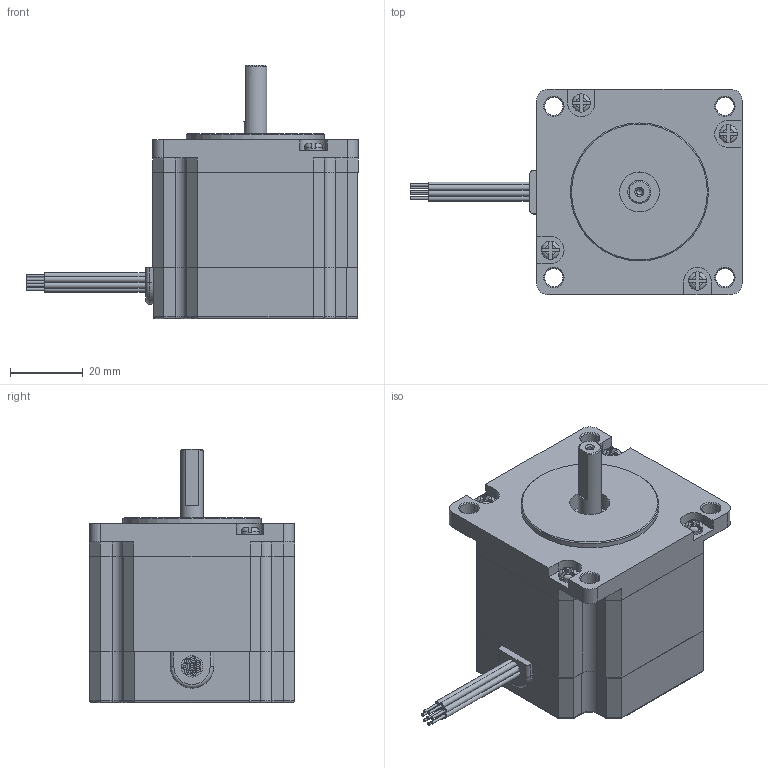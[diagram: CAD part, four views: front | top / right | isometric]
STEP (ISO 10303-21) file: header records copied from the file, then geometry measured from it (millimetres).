
FILE_DESCRIPTION(/* description */ (''),/* implementation_level */ '2;1');
FILE_NAME(/* name */ 'C:\Users\Admin\Desktop\MOTOR DE PASSO EDILSON\MOTOR HT23397.step',/* time_stamp */ '2020-07-06T16:43:31-03:00',/* author */ ('Admin'),/* organization */ (''),/* preprocessor_version */ 'ST-DEVELOPER v16.1',/* originating_system */ 'Autodesk Inventor 2016',/* authorisation */ '');
FILE_SCHEMA (('AUTOMOTIVE_DESIGN { 1 0 10303 214 3 1 1 }'));
Length unit declared in the file: millimetre
Products named in the file (1): MOTOR HT23397
Bounding box: 91.4 x 56.5 x 69.75 mm (x, y, z)
Volume: 141535 mm3; surface area: 19692.9 mm2
Topology: 1 solids, 1 shells, 490 faces, 1301 edges, 854 vertices
Faces by surface type: plane 290, bspline 84, cylinder 78, torus 21, cone 17
Full cylindrical faces by diameter (mm): 0.7 x8, 1.567 x1, 1.6 x8, 2.013 x5, 5 x8, 5.935 x1, 6.35 x1, 10.5 x1, 11 x1, 38 x1
Entity records: 15845 total; most frequent: CARTESIAN_POINT 4194, ORIENTED_EDGE 2470, DIRECTION 2048, EDGE_CURVE 1235, VERTEX_POINT 839, LINE 832, VECTOR 832, AXIS2_PLACEMENT_3D 608
